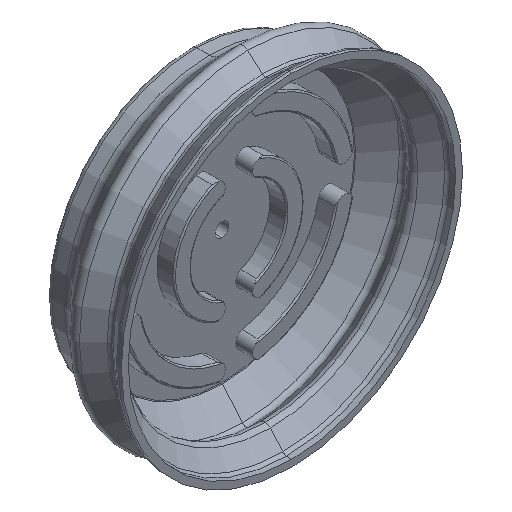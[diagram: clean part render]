
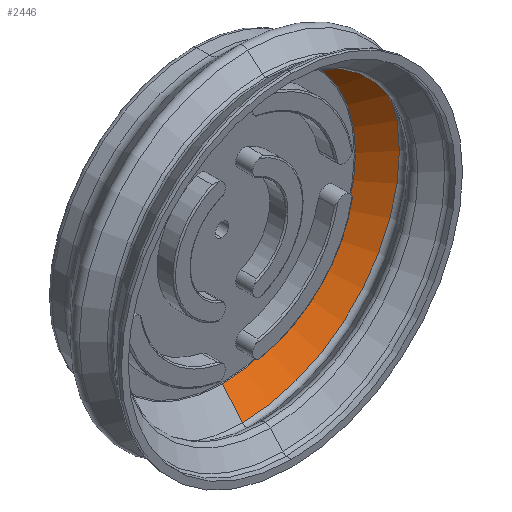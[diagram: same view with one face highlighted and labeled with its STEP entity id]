
A CAD part, isometric view. The second image highlights one B-rep face of the part: STEP entity #2446.
In plain terms, the highlighted conical face has half-angle 50 degrees and reference radius 39.062 mm.
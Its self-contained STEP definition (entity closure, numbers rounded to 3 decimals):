
#23 = CARTESIAN_POINT ( 'NONE',  ( 0., 20.406, -39.062 ) ) ;
#202 = VECTOR ( 'NONE', #3547, 1000. ) ;
#397 = CIRCLE ( 'NONE', #2071, 46.044 ) ;
#482 = ORIENTED_EDGE ( 'NONE', *, *, #592, .F. ) ;
#592 = EDGE_CURVE ( 'NONE', #1876, #1222, #397, .T. ) ;
#683 = CARTESIAN_POINT ( 'NONE',  ( 0., 20.406, -39.062 ) ) ;
#696 = VECTOR ( 'NONE', #1158, 1000. ) ;
#709 = DIRECTION ( 'NONE',  ( 0., -1., 0. ) ) ;
#755 = CARTESIAN_POINT ( 'NONE',  ( 0., 14.548, 46.044 ) ) ;
#799 = VERTEX_POINT ( 'NONE', #3313 ) ;
#1158 = DIRECTION ( 'NONE',  ( 0., -0.643, -0.766 ) ) ;
#1222 = VERTEX_POINT ( 'NONE', #3616 ) ;
#1354 = DIRECTION ( 'NONE',  ( 0., 0., 1. ) ) ;
#1391 = AXIS2_PLACEMENT_3D ( 'NONE', #1730, #709, #1809 ) ;
#1480 = EDGE_CURVE ( 'NONE', #799, #1876, #3241, .T. ) ;
#1509 = DIRECTION ( 'NONE',  ( 0., 0., 1. ) ) ;
#1546 = DIRECTION ( 'NONE',  ( 0., 1., 0. ) ) ;
#1730 = CARTESIAN_POINT ( 'NONE',  ( 0., 20.406, 0. ) ) ;
#1753 = VERTEX_POINT ( 'NONE', #683 ) ;
#1773 = ORIENTED_EDGE ( 'NONE', *, *, #1480, .F. ) ;
#1809 = DIRECTION ( 'NONE',  ( 0., 0., -1. ) ) ;
#1818 = CIRCLE ( 'NONE', #2985, 39.062 ) ;
#1848 = ORIENTED_EDGE ( 'NONE', *, *, #3102, .T. ) ;
#1857 = CARTESIAN_POINT ( 'NONE',  ( 0., 20.406, 39.062 ) ) ;
#1876 = VERTEX_POINT ( 'NONE', #755 ) ;
#1996 = LINE ( 'NONE', #23, #696 ) ;
#2071 = AXIS2_PLACEMENT_3D ( 'NONE', #2352, #1546, #1509 ) ;
#2207 = EDGE_CURVE ( 'NONE', #799, #1753, #1818, .T. ) ;
#2352 = CARTESIAN_POINT ( 'NONE',  ( 0., 14.548, 0. ) ) ;
#2387 = CARTESIAN_POINT ( 'NONE',  ( 0., 20.406, 0. ) ) ;
#2446 = ADVANCED_FACE ( 'NONE', ( #3191 ), #3614, .F. ) ;
#2450 = DIRECTION ( 'NONE',  ( 0., 1., 0. ) ) ;
#2938 = EDGE_LOOP ( 'NONE', ( #1773, #3108, #1848, #482 ) ) ;
#2985 = AXIS2_PLACEMENT_3D ( 'NONE', #2387, #2450, #1354 ) ;
#3102 = EDGE_CURVE ( 'NONE', #1753, #1222, #1996, .T. ) ;
#3108 = ORIENTED_EDGE ( 'NONE', *, *, #2207, .T. ) ;
#3191 = FACE_OUTER_BOUND ( 'NONE', #2938, .T. ) ;
#3241 = LINE ( 'NONE', #1857, #202 ) ;
#3313 = CARTESIAN_POINT ( 'NONE',  ( 0., 20.406, 39.062 ) ) ;
#3547 = DIRECTION ( 'NONE',  ( 0., -0.643, 0.766 ) ) ;
#3614 = CONICAL_SURFACE ( 'NONE', #1391, 39.062, 0.873 ) ;
#3616 = CARTESIAN_POINT ( 'NONE',  ( 0., 14.548, -46.044 ) ) ;
